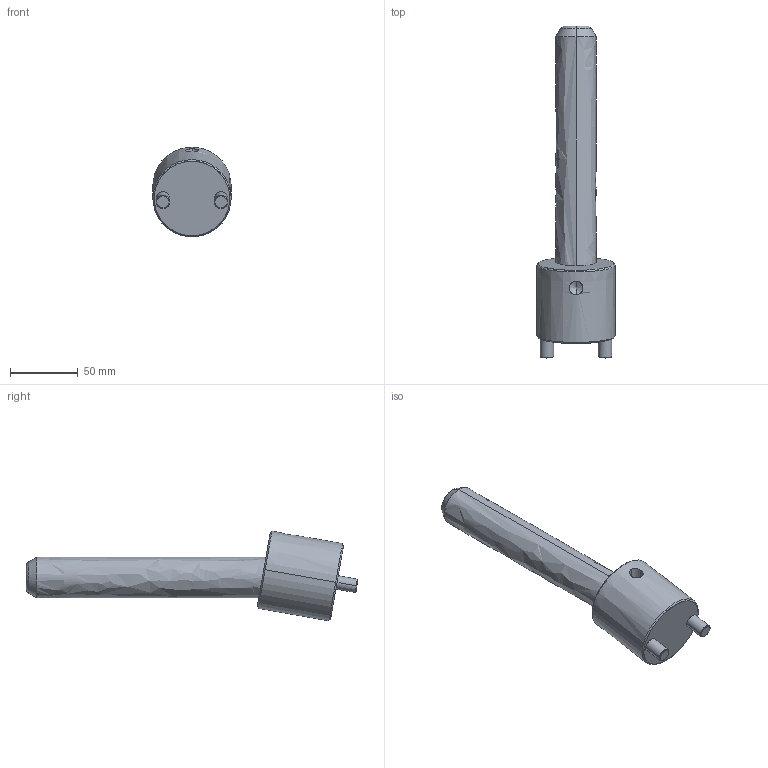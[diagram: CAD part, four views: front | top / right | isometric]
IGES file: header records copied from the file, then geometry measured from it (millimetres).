
Start section: START RECORD GO HERE.
Global section: file name: CI1030175.igs; native system: DASSAULT SYSTEMES CATIA V5 R20 - www.3ds.com; preprocessor: CATIA Version 5 Release 20 ; author: r.borello; organization: CFTORINO; date: 20190621.160004; units: millimetre
Bounding box: 58 x 245.76 x 66.32 mm (x, y, z)
Surface area: 42621.4 mm2 (no closed solid volume)
Topology: 0 solids, 0 shells, 39 faces, 162 edges, 160 vertices
Faces by surface type: revolution 32, plane 7
